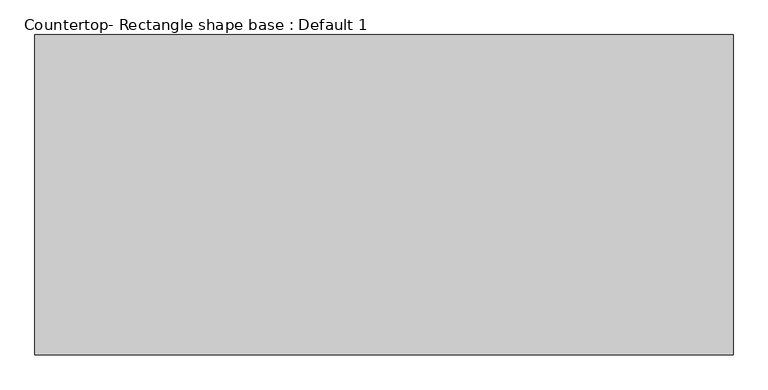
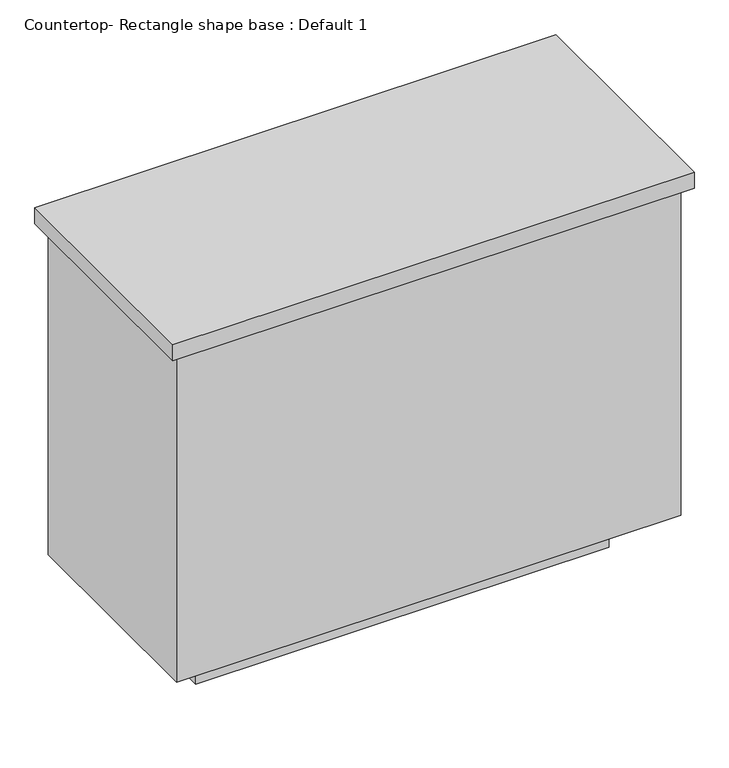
"""IFC4 building model written with IfcOpenShell, lengths in millimetres: proxy geometry, Countertop- Rectangle shape base : Default 1."""

import ifcopenshell
import ifcopenshell.guid

model = None  # the IFC model being written
_history = None  # IfcOwnerHistory: only IFC2X3 demands one
_inside = {}  # id of a spatial element -> (the spatial element, [elements in it])
_under = {}  # id of a project, library or spatial element -> (it, [spatial elements below it])
_declared = {}  # id of a project -> (the project, [libraries it declares])
_typed = {}  # id of a type object -> (the type object, [elements of that type])
_made_of = {}  # id of a material, layer set ... -> (it, [elements and type objects made of it])


def new_model(schema):
    """Start an empty IFC model of exactly this schema.

    Asked for "IFC4X3", IfcOpenShell would pick the latest addendum, in which some entities
    have other attributes; the version numbers below select the first issue.
    IFC2X3 requires an IfcOwnerHistory on every rooted entity: one is made here for all.
    """
    global model, _history
    if schema == "IFC4X3":
        model = ifcopenshell.file(schema_version=(4, 3, 0, 0))
    else:
        model = ifcopenshell.file(schema=schema)
    _inside.clear()
    _under.clear()
    _declared.clear()
    _typed.clear()
    _made_of.clear()
    _history = None
    if model.schema == "IFC2X3":
        org = make("IfcOrganization", Name="unknown")
        user = make(
            "IfcPersonAndOrganization",
            ThePerson=make("IfcPerson", FamilyName="unknown"),
            TheOrganization=org,
        )
        app = make(
            "IfcApplication",
            ApplicationDeveloper=org,
            Version="unknown",
            ApplicationFullName="unknown",
            ApplicationIdentifier="unknown",
        )
        _history = make(
            "IfcOwnerHistory",
            OwningUser=user,
            OwningApplication=app,
            ChangeAction="ADDED",
            CreationDate=0,
        )
    return model


def make(cls, **values):
    """One entity of the class cls with the attributes given. An attribute that is None is left unset."""
    return model.create_entity(
        cls, **{name: value for name, value in values.items() if value is not None}
    )


def rooted(cls, **values):
    """An entity with a GlobalId (a new one), such as an element, a storey or a relation."""
    return make(cls, GlobalId=ifcopenshell.guid.new(), OwnerHistory=_history, **values)


def si_unit(unit_type, name, prefix=None):
    """IfcSIUnit, for example si_unit("LENGTHUNIT", "METRE", prefix="MILLI")."""
    return make("IfcSIUnit", UnitType=unit_type, Prefix=prefix, Name=name)


def assignment(units):
    """IfcUnitAssignment: the units of a project."""
    return None if units is None else make("IfcUnitAssignment", Units=units)


def point(xyz):
    """IfcCartesianPoint."""
    return None if xyz is None else make("IfcCartesianPoint", Coordinates=xyz)


def direction(xyz):
    """IfcDirection."""
    return None if xyz is None else make("IfcDirection", DirectionRatios=xyz)


def frame(location, z_axis=None, x_axis=None):
    """IfcAxis2Placement3D, a coordinate frame: its origin and axes. An axis left out is left unset."""
    return make(
        "IfcAxis2Placement3D",
        Location=point(location),
        Axis=direction(z_axis),
        RefDirection=direction(x_axis),
    )


def origin():
    """The frame at (0, 0, 0) with its axes left unset."""
    return frame((0.0, 0.0, 0.0))


def origin_with_axes():
    """The frame at (0, 0, 0) with the z axis (0, 0, 1) and the x axis (1, 0, 0) written out."""
    return frame((0.0, 0.0, 0.0), z_axis=(0.0, 0.0, 1.0), x_axis=(1.0, 0.0, 0.0))


def place(relative_to, where):
    """IfcLocalPlacement: puts the frame where relative to a parent placement (None: the world)."""
    return make(
        "IfcLocalPlacement", PlacementRelTo=relative_to, RelativePlacement=where
    )


def context(
    kind, dimensions, precision=None, world=None, true_north=None, identifier=None
):
    """IfcGeometricRepresentationContext, for example the 3D "Model" context."""
    return make(
        "IfcGeometricRepresentationContext",
        ContextIdentifier=identifier,
        ContextType=kind,
        CoordinateSpaceDimension=dimensions,
        Precision=precision,
        WorldCoordinateSystem=world,
        TrueNorth=true_north,
    )


def project(units=None, contexts=None):
    """IfcProject with its units and contexts."""
    return rooted(
        "IfcProject",
        Name="project",
        RepresentationContexts=contexts,
        UnitsInContext=assignment(units),
    )


def spatial(cls, under=None, at=None, **own):
    """A site, building, storey or space (cls), placed at a placement, below another one or the project."""
    s = rooted(cls, ObjectPlacement=at, **own)
    if under is not None:
        _under.setdefault(under.id(), (under, []))[1].append(s)
    return s


def polyline(points):
    """IfcPolyline through the points."""
    return make("IfcPolyline", Points=[point(p) for p in points])


def outline(outer, holes=None, kind="AREA"):
    """IfcArbitraryClosedProfileDef: a profile drawn as a closed curve; with holes, ...WithVoids."""
    if holes is None:
        return make("IfcArbitraryClosedProfileDef", ProfileType=kind, OuterCurve=outer)
    return make(
        "IfcArbitraryProfileDefWithVoids",
        ProfileType=kind,
        OuterCurve=outer,
        InnerCurves=holes,
    )


def extrude(swept, where, along, depth):
    """IfcExtrudedAreaSolid: the profile swept, set in the frame where, extruded along a direction by depth."""
    return make(
        "IfcExtrudedAreaSolid",
        SweptArea=swept,
        Position=where,
        ExtrudedDirection=direction(along),
        Depth=depth,
    )


def shape(context_of_items, identifier, shape_type, items):
    """IfcShapeRepresentation: the items that make up one representation, for example the "Body"."""
    return make(
        "IfcShapeRepresentation",
        ContextOfItems=context_of_items,
        RepresentationIdentifier=identifier,
        RepresentationType=shape_type,
        Items=items,
    )


def source(mapping_origin, context_of_items, identifier, shape_type, items):
    """IfcRepresentationMap: a shape defined once, which mapped items show again and again."""
    return make(
        "IfcRepresentationMap",
        MappingOrigin=mapping_origin,
        MappedRepresentation=shape(context_of_items, identifier, shape_type, items),
    )


def transform(
    local_origin,
    x_axis=None,
    y_axis=None,
    z_axis=None,
    scale=None,
    scale2=None,
    scale3=None,
    uniform=True,
):
    """IfcCartesianTransformationOperator3D, or its non-uniform kind. x_axis, y_axis, z_axis: its Axis1, 2, 3."""
    if uniform:
        return make(
            "IfcCartesianTransformationOperator3D",
            Axis1=direction(x_axis),
            Axis2=direction(y_axis),
            LocalOrigin=point(local_origin),
            Scale=scale,
            Axis3=direction(z_axis),
        )
    return make(
        "IfcCartesianTransformationOperator3DnonUniform",
        Axis1=direction(x_axis),
        Axis2=direction(y_axis),
        LocalOrigin=point(local_origin),
        Scale=scale,
        Axis3=direction(z_axis),
        Scale2=scale2,
        Scale3=scale3,
    )


def mapped(mapping_source, mapping_target):
    """IfcMappedItem: shows the shape of a source again, moved by a transform."""
    return make(
        "IfcMappedItem", MappingSource=mapping_source, MappingTarget=mapping_target
    )


def made_of(thing, what):
    """Note that an element or type object is made of a material, layer set ...; save() writes the relation."""
    if what is not None:
        _made_of.setdefault(what.id(), (what, []))[1].append(thing)
    return thing


def element(
    cls,
    number,
    at=None,
    inside=None,
    cuts=None,
    type_object=None,
    material=None,
    context=None,
    identifier="Body",
    shape_type=None,
    held_by="IfcProductDefinitionShape",
    body=None,
    shapes=None,
    **own,
):
    """One element of the class cls, such as IfcWall. Its Tag is "e" and its number.

    at: its placement. inside: the storey or other place that contains it. cuts: it is an
    opening in that element (IfcRelVoidsElement). A single representation is given by context,
    identifier, shape_type and body (its items); several are given by shapes. held_by: the class
    of the entity that holds the representations. save() writes the other relations.
    """
    e = rooted(cls, Tag="e%d" % number, ObjectPlacement=at, **own)
    if body is not None:
        shapes = [shape(context, identifier, shape_type, body)]
    if shapes is not None:
        e.Representation = make(held_by, Representations=shapes)
    if inside is not None:
        _inside.setdefault(inside.id(), (inside, []))[1].append(e)
    if cuts is not None:
        rooted(
            "IfcRelVoidsElement", RelatingBuildingElement=cuts, RelatedOpeningElement=e
        )
    if type_object is not None:
        _typed.setdefault(type_object.id(), (type_object, []))[1].append(e)
    return made_of(e, material)


def aggregate(whole, parts):
    """IfcRelAggregates: a whole, such as a stair, and the parts it consists of."""
    return rooted("IfcRelAggregates", RelatingObject=whole, RelatedObjects=parts)


def save(model, path):
    """Write the relations noted so far, then the file.

    IfcRelAggregates (storeys below a building ...), IfcRelContainedInSpatialStructure (elements
    in a storey), IfcRelDefinesByType, IfcRelAssociatesMaterial and IfcRelDeclares: one each for
    every whole, place, type object, material and project.
    """
    for whole, parts in _under.values():
        aggregate(whole, parts)
    for where, things in _inside.values():
        rooted(
            "IfcRelContainedInSpatialStructure",
            RelatedElements=things,
            RelatingStructure=where,
        )
    for kind, things in _typed.values():
        rooted("IfcRelDefinesByType", RelatedObjects=things, RelatingType=kind)
    for what, things in _made_of.values():
        rooted("IfcRelAssociatesMaterial", RelatedObjects=things, RelatingMaterial=what)
    for by, libraries in _declared.values():
        rooted("IfcRelDeclares", RelatingContext=by, RelatedDefinitions=libraries)
    model.write(path)


def countertop_rectangle_shape_base_default_1_043f96cc(model_context):
    return source(origin(), model_context, "Body", "SweptSolid", [
        extrude(outline(polyline([(181.1301778, 114.6351), (181.1301778, 647.3649), (1342.8698222, 647.3649), (1342.8698222, 114.6351), (181.1301778, 114.6351)])), frame((0.0, 0.0, 876.3), z_axis=(0.0, 0.0, 1.0), x_axis=(1.0, 0.0, 0.0)), (0.0, 0.0, 1.0), 38.1),
        extrude(outline(polyline([(1323.8198222, 628.3149), (1323.8198222, 133.6851), (200.1801778, 133.6851), (200.1801778, 628.3149), (1323.8198222, 628.3149)])), frame((0.0, 0.0, 101.6), z_axis=(0.0, 0.0, 1.0), x_axis=(1.0, 0.0, 0.0)), (0.0, 0.0, 1.0), 774.7),
        extrude(outline(polyline([(1222.2198222, 526.7149), (1222.2198222, 235.2851), (301.7801778, 235.2851), (301.7801778, 526.7149), (1222.2198222, 526.7149)])), origin_with_axes(), (0.0, 0.0, 1.0), 101.6),
    ])


if __name__ == "__main__":
    model = new_model("IFC4")
    model_context = context("Model", 3, world=origin())
    ifc_project = project(units=[si_unit("LENGTHUNIT", "METRE", prefix="MILLI")], contexts=[model_context])
    site = spatial("IfcSite", under=ifc_project)
    building = spatial("IfcBuilding", under=site)
    placement = place(None, origin())
    countertop_rectangle_shape_base_default_1_shape = countertop_rectangle_shape_base_default_1_043f96cc(model_context)
    element("IfcBuildingElementProxy", 1, Name="Countertop- Rectangle shape base : Default 1", ObjectType="Countertop- Rectangle shape base : Default 1", at=placement, inside=building, context=model_context, shape_type="MappedRepresentation", body=[
        mapped(countertop_rectangle_shape_base_default_1_shape, transform((0.0, 0.0, 0.0), x_axis=(1.0, 0.0, 0.0), y_axis=(0.0, 1.0, 0.0), z_axis=(0.0, 0.0, 1.0))),
    ])
    save(model, "model.ifc")
